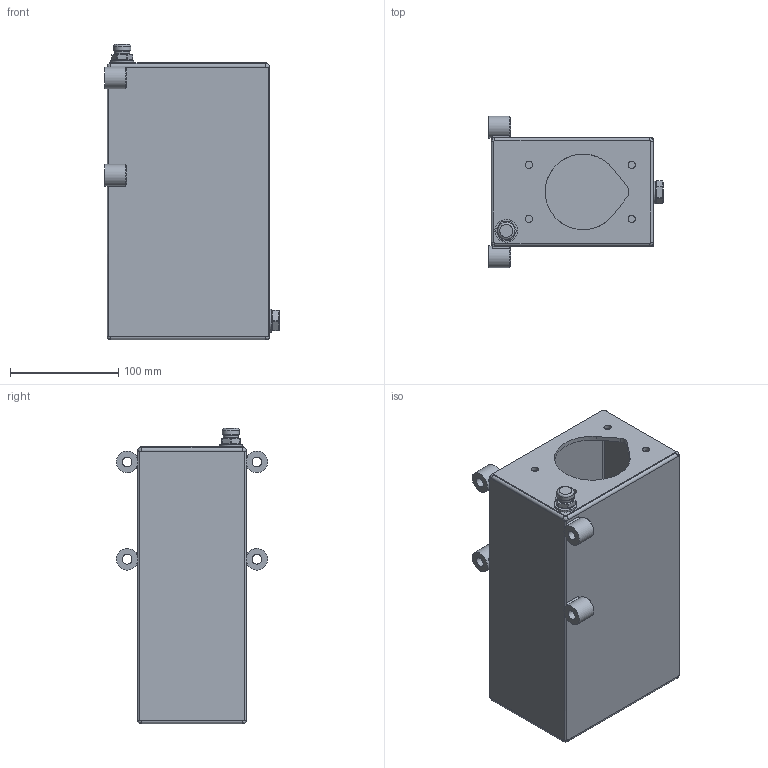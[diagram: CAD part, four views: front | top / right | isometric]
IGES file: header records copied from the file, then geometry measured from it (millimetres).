
Global section: file name: 6500.0360; native system: Autodesk Inventor 2026; preprocessor: unknown; author: Scardovi; organization: HV HYDRAULIC s.r.l.; date: 20260212.075500; units: millimetre
Bounding box: 161 x 140 x 273 mm (x, y, z)
Volume: 480453.5 mm3; surface area: 324172.7 mm2
Topology: 22 solids, 22 shells, 235 faces, 534 edges, 344 vertices
Faces by surface type: bspline 235
